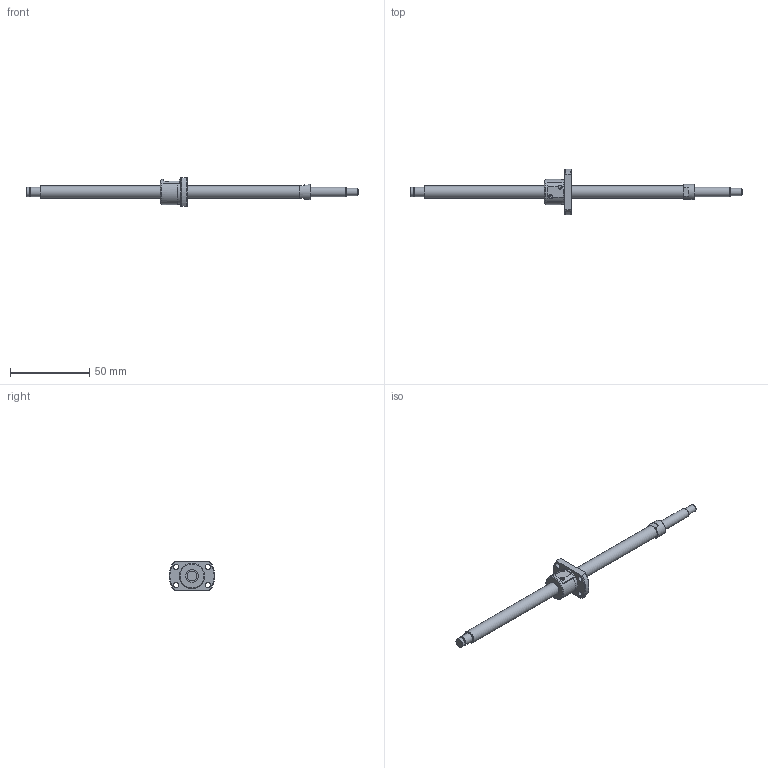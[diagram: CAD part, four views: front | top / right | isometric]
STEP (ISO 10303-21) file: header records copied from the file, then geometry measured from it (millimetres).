
FILE_DESCRIPTION(/* description */ ('STEP AP214'),/* implementation_level */ '2;1');
FILE_NAME(/* name */ 'PSRT0801-160R210C5B0X(B76)',/* time_stamp */ '2026-08-06T16:12:10+02:00',/* author */ ('License CC BY-ND 4.0'),/* organization */ ('CADENAS'),/* preprocessor_version */ 'ST-DEVELOPER v20',/* originating_system */ 'PARTsolutions',/* authorisation */ ' ');
FILE_SCHEMA (('AUTOMOTIVE_DESIGN {1 0 10303 214 3 1 1}'));
Length unit declared in the file: millimetre
Products named in the file (3): PSRT0801-160R210C5B0X(B76); PSRT0801B210_shaft; PSR0801_nut
Assembly tree (2 placements, depth 2):
  PSRT0801-160R210C5B0X(B76)
    PSRT0801B210_shaft
    PSR0801_nut
Bounding box: 210 x 29 x 18 mm (x, y, z)
Volume: 13175.7 mm3; surface area: 7606.7 mm2
Topology: 2 solids, 2 shells, 73 faces, 175 edges, 114 vertices
Faces by surface type: plane 36, cylinder 28, cone 8, torus 1
Full cylindrical faces by diameter (mm): 2.5 x2, 3.4 x4, 4.5 x1, 5.7 x1, 6 x3, 8 x2, 9.5 x1, 15.6 x1, 16 x1
Entity records: 2097 total; most frequent: CARTESIAN_POINT 370, DIRECTION 362, ORIENTED_EDGE 298, EDGE_CURVE 149, AXIS2_PLACEMENT_3D 147, EDGE_LOOP 112, FACE_BOUND 112, VERTEX_POINT 109
